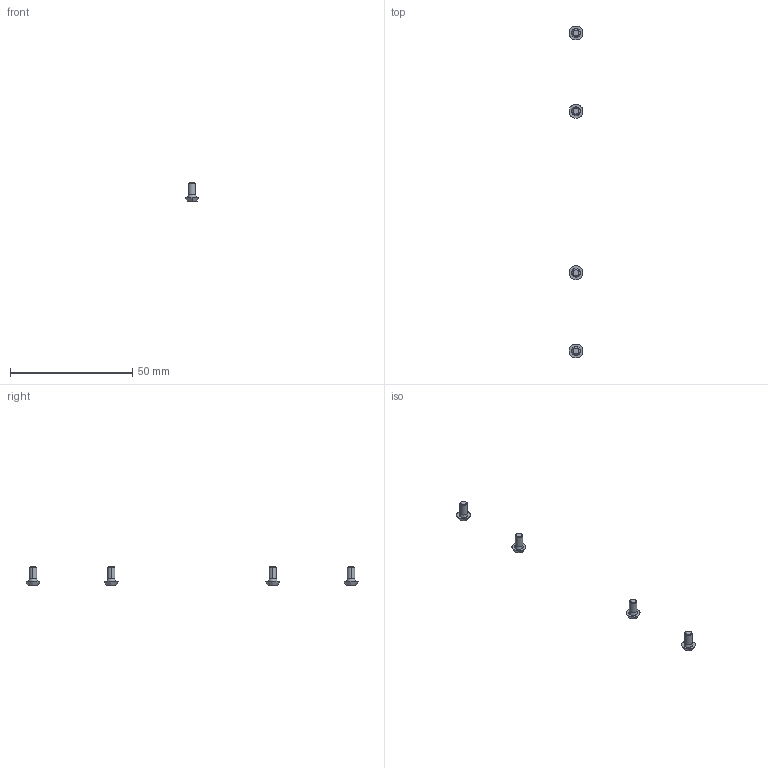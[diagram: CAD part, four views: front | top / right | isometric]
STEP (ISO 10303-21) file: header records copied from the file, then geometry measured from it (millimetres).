
FILE_DESCRIPTION(/* description */ (''),/* implementation_level */ '2;1');
FILE_NAME(/* name */ '9.electronics#9.2#BCB3-6',/* time_stamp */ '2014-12-01T20:18:45+01:00',/* author */ (''),/* organization */ (''),/* preprocessor_version */ 'ST-DEVELOPER v14',/* originating_system */ '',/* authorisation */ '');
FILE_SCHEMA (('AUTOMOTIVE_DESIGN'));
Length unit declared in the file: millimetre
Products named in the file (2): Document; screw ISO7380, button, M3x06
Assembly tree (4 placements, depth 2):
  Document
    screw ISO7380, button, M3x06  x4
Bounding box: 5.7 x 135.7 x 7.65 mm (x, y, z)
Volume: 290 mm3; surface area: 511.8 mm2
Topology: 4 solids, 4 shells, 100 faces, 232 edges, 140 vertices
Faces by surface type: plane 60, bspline 40
Entity records: 1585 total; most frequent: CARTESIAN_POINT 773, B_SPLINE_CURVE_WITH_KNOTS 126, ORIENTED_EDGE 112, PCURVE 112, DEFINITIONAL_REPRESENTATION 112, SURFACE_CURVE 56, EDGE_CURVE 56, VERTEX_POINT 35
